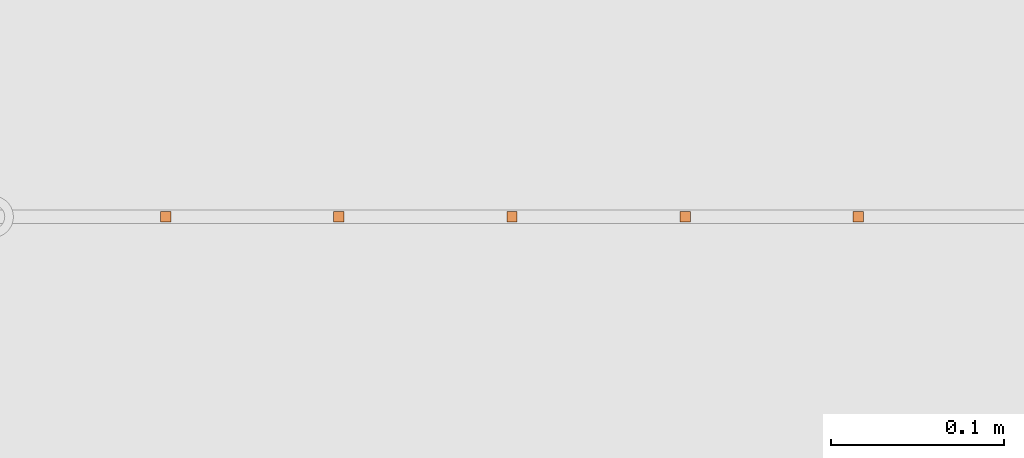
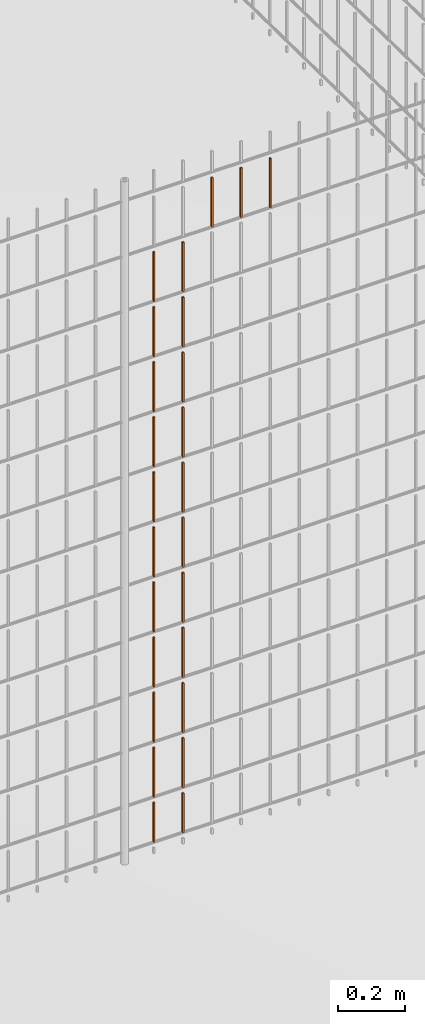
# One storey, part 247 of 1809: 25 proxies, 1 element without a shape of its own.
"""IFC2X3 building model written with IfcOpenShell, lengths in millimetres."""

from ifc_helpers import new_model, entity, si_unit, converted_unit, derived_unit, money_unit, direction, frame, origin_with_axes, place, context, subcontext, project, spatial, faceted_brep, source, transform, mapped, material, type_object, element, aggregate, save


model = new_model("IFC2X3")

# Units and contexts
model_context = context("Model", 3, precision=0.01, world=origin_with_axes(), true_north=direction((0.0, 1.0)))
body_context = subcontext(model_context, "Body", "Model", "MODEL_VIEW")
ifc_project = project(units=[si_unit("LENGTHUNIT", "METRE", prefix="MILLI"), si_unit("AREAUNIT", "SQUARE_METRE"), si_unit("VOLUMEUNIT", "CUBIC_METRE"), converted_unit("PLANEANGLEUNIT", "DEGREE", entity("IfcPlaneAngleMeasure", 0.0174532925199), si_unit("PLANEANGLEUNIT", "RADIAN"), dimensions=[0, 0, 0, 0, 0, 0, 0]), si_unit("SOLIDANGLEUNIT", "STERADIAN"), money_unit("EUR"), converted_unit("TIMEUNIT", "Year", entity("IfcTimeMeasure", 31556926.0), si_unit("TIMEUNIT", "SECOND"), dimensions=[0, 0, 1, 0, 0, 0, 0]), si_unit("MASSUNIT", "GRAM", prefix="KILO"), si_unit("THERMODYNAMICTEMPERATUREUNIT", "DEGREE_CELSIUS"), si_unit("LUMINOUSINTENSITYUNIT", "LUMEN"), si_unit("ENERGYUNIT", "JOULE", prefix="MEGA"), derived_unit("THERMALCONDUCTANCEUNIT", [(si_unit("POWERUNIT", "WATT"), 1), (si_unit("LENGTHUNIT", "METRE"), -1), (si_unit("THERMODYNAMICTEMPERATUREUNIT", "KELVIN"), -1)]), derived_unit("SPECIFICHEATCAPACITYUNIT", [(si_unit("ENERGYUNIT", "JOULE"), 1), (si_unit("MASSUNIT", "GRAM", prefix="KILO"), -1), (si_unit("THERMODYNAMICTEMPERATUREUNIT", "KELVIN"), -1)]), derived_unit("MASSDENSITYUNIT", [(si_unit("MASSUNIT", "GRAM", prefix="KILO"), 1), (si_unit("VOLUMEUNIT", "CUBIC_METRE"), -1)])], contexts=[model_context])

# Site, building, storey
site_placement = place(None, origin_with_axes())
site = spatial("IfcSite", under=ifc_project, at=site_placement, Name="Politse- ja Piirivalveameti ning Päästeameti ühishoone", CompositionType="ELEMENT")
building_placement = place(site_placement, origin_with_axes())
building = spatial("IfcBuilding", under=site, at=building_placement, Name="Politse- ja Piirivalveameti ning Päästeameti ühishoone", CompositionType="ELEMENT")
storey_placement = place(building_placement, origin_with_axes())
storey = spatial("IfcBuildingStorey", under=building, at=storey_placement, Name="Esimene korrus", CompositionType="ELEMENT", Elevation=0.0)

# Proxies
building_element_proxy_type_1 = type_object("IfcBuildingElementProxyType", Name="Railing Type", PredefinedType="NOTDEFINED")
proxy_1_placement = place(storey_placement, frame((-16775.8601056, 25156.7555964, 0.0), z_axis=(0.0, 0.0, 1.0), x_axis=(1.0, 0.0, 0.0)))
proxy_1 = element("IfcBuildingElementProxy", 1, at=proxy_1_placement, inside=storey, type_object=building_element_proxy_type_1, Name="KENNELI PIIRE")
ifc_material = material(Name="Teras - Konstruktsioon")
building_element_proxy_type_2 = type_object("IfcBuildingElementProxyType", Name="IfcBuildingElementProxy", PredefinedType="NOTDEFINED")
shared_shape_1 = source(origin_with_axes(), body_context, "Body", "Brep", [
    faceted_brep([(3.0, 3.0, 0.0), (-3.0, 3.0, 0.0), (-3.0, 3.0, 180.000012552), (3.0, 3.0, 180.000012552), (3.0, -3.0, 0.0), (-3.0, -3.0, 0.0), (-3.0, -3.0, 180.000012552), (3.0, -3.0, 180.000012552)], [[[0, 1, 2, 3]], [[0, 4, 5, 1]], [[1, 5, 6, 2]], [[3, 2, 6, 7]], [[4, 0, 3, 7]], [[5, 4, 7, 6]]]),
])
proxy_2_placement = place(proxy_1_placement, frame((-2282.26655065, -16068.8402798, 403.999987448), z_axis=(0.0, 0.0, 1.0), x_axis=(1.0, 0.0, 0.0)))
proxy_2 = element("IfcBuildingElementProxy", 2, at=proxy_2_placement, type_object=building_element_proxy_type_2, material=ifc_material, Name="BALUSTER - 001", context=body_context, shape_type="MappedRepresentation", body=[
    mapped(shared_shape_1, transform((0.0, 0.0, 0.0), x_axis=(0.0, -1.0, 0.0), y_axis=(1.0, 0.0, 0.0), z_axis=(0.0, 0.0, 1.0))),
])
proxy_3_placement = place(proxy_1_placement, frame((-2182.26655065, -16068.8402798, 403.999987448), z_axis=(0.0, 0.0, 1.0), x_axis=(1.0, 0.0, 0.0)))
proxy_3 = element("IfcBuildingElementProxy", 3, at=proxy_3_placement, type_object=building_element_proxy_type_2, material=ifc_material, Name="BALUSTER - 001", context=body_context, shape_type="MappedRepresentation", body=[
    mapped(shared_shape_1, transform((0.0, 0.0, 0.0), x_axis=(0.0, -1.0, 0.0), y_axis=(1.0, 0.0, 0.0), z_axis=(0.0, 0.0, 1.0))),
])
proxy_4_placement = place(proxy_1_placement, frame((-2282.26655065, -16068.8402798, 803.999987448), z_axis=(0.0, 0.0, 1.0), x_axis=(1.0, 0.0, 0.0)))
proxy_4 = element("IfcBuildingElementProxy", 4, at=proxy_4_placement, type_object=building_element_proxy_type_2, material=ifc_material, Name="BALUSTER - 001", context=body_context, shape_type="MappedRepresentation", body=[
    mapped(shared_shape_1, transform((0.0, 0.0, 0.0), x_axis=(0.0, -1.0, 0.0), y_axis=(1.0, 0.0, 0.0), z_axis=(0.0, 0.0, 1.0))),
])
proxy_5_placement = place(proxy_1_placement, frame((-2182.26655065, -16068.8402798, 803.999987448), z_axis=(0.0, 0.0, 1.0), x_axis=(1.0, 0.0, 0.0)))
proxy_5 = element("IfcBuildingElementProxy", 5, at=proxy_5_placement, type_object=building_element_proxy_type_2, material=ifc_material, Name="BALUSTER - 001", context=body_context, shape_type="MappedRepresentation", body=[
    mapped(shared_shape_1, transform((0.0, 0.0, 0.0), x_axis=(0.0, -1.0, 0.0), y_axis=(1.0, 0.0, 0.0), z_axis=(0.0, 0.0, 1.0))),
])
proxy_6_placement = place(proxy_1_placement, frame((-2282.26655065, -16068.8402798, 1003.99998745), z_axis=(0.0, 0.0, 1.0), x_axis=(1.0, 0.0, 0.0)))
proxy_6 = element("IfcBuildingElementProxy", 6, at=proxy_6_placement, type_object=building_element_proxy_type_2, material=ifc_material, Name="BALUSTER - 001", context=body_context, shape_type="MappedRepresentation", body=[
    mapped(shared_shape_1, transform((0.0, 0.0, 0.0), x_axis=(0.0, -1.0, 0.0), y_axis=(1.0, 0.0, 0.0), z_axis=(0.0, 0.0, 1.0))),
])
proxy_7_placement = place(proxy_1_placement, frame((-2182.26655065, -16068.8402798, 1003.99998745), z_axis=(0.0, 0.0, 1.0), x_axis=(1.0, 0.0, 0.0)))
proxy_7 = element("IfcBuildingElementProxy", 7, at=proxy_7_placement, type_object=building_element_proxy_type_2, material=ifc_material, Name="BALUSTER - 001", context=body_context, shape_type="MappedRepresentation", body=[
    mapped(shared_shape_1, transform((0.0, 0.0, 0.0), x_axis=(0.0, -1.0, 0.0), y_axis=(1.0, 0.0, 0.0), z_axis=(0.0, 0.0, 1.0))),
])
shared_shape_2 = source(origin_with_axes(), body_context, "Body", "Brep", [
    faceted_brep([(3.0, 3.0, 0.0), (-3.0, 3.0, 0.0), (-3.0, 3.0, 144.000012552), (3.0, 3.0, 144.000012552), (3.0, -3.0, 0.0), (-3.0, -3.0, 0.0), (-3.0, -3.0, 144.000012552), (3.0, -3.0, 144.000012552)], [[[0, 1, 2, 3]], [[0, 4, 5, 1]], [[1, 5, 6, 2]], [[3, 2, 6, 7]], [[4, 0, 3, 7]], [[5, 4, 7, 6]]]),
])
proxy_8_placement = place(proxy_1_placement, frame((-2282.26655065, -16068.8402798, 39.9999874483), z_axis=(0.0, 0.0, 1.0), x_axis=(1.0, 0.0, 0.0)))
proxy_8 = element("IfcBuildingElementProxy", 8, at=proxy_8_placement, type_object=building_element_proxy_type_2, material=ifc_material, Name="BALUSTER - 001", context=body_context, shape_type="MappedRepresentation", body=[
    mapped(shared_shape_2, transform((0.0, 0.0, 0.0), x_axis=(0.0, -1.0, 0.0), y_axis=(1.0, 0.0, 0.0), z_axis=(0.0, 0.0, 1.0))),
])
proxy_9_placement = place(proxy_1_placement, frame((-2182.26655065, -16068.8402798, 39.9999874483), z_axis=(0.0, 0.0, 1.0), x_axis=(1.0, 0.0, 0.0)))
proxy_9 = element("IfcBuildingElementProxy", 9, at=proxy_9_placement, type_object=building_element_proxy_type_2, material=ifc_material, Name="BALUSTER - 001", context=body_context, shape_type="MappedRepresentation", body=[
    mapped(shared_shape_2, transform((0.0, 0.0, 0.0), x_axis=(0.0, -1.0, 0.0), y_axis=(1.0, 0.0, 0.0), z_axis=(0.0, 0.0, 1.0))),
])
shared_shape_3 = source(origin_with_axes(), body_context, "Body", "Brep", [
    faceted_brep([(3.0, 3.0, 0.0), (-3.0, 3.0, 0.0), (-3.0, 3.0, 180.000012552), (3.0, 3.0, 180.000012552), (3.0, -3.0, 0.0), (-3.0, -3.0, 0.0), (-3.0, -3.0, 180.000012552), (3.0, -3.0, 180.000012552)], [[[0, 1, 2, 3]], [[0, 4, 5, 1]], [[1, 5, 6, 2]], [[3, 2, 6, 7]], [[4, 0, 3, 7]], [[5, 4, 7, 6]]]),
])
proxy_10_placement = place(proxy_1_placement, frame((-2282.26655065, -16068.8402798, 1403.99998745), z_axis=(0.0, 0.0, 1.0), x_axis=(1.0, 0.0, 0.0)))
proxy_10 = element("IfcBuildingElementProxy", 10, at=proxy_10_placement, type_object=building_element_proxy_type_2, material=ifc_material, Name="BALUSTER - 001", context=body_context, shape_type="MappedRepresentation", body=[
    mapped(shared_shape_3, transform((0.0, 0.0, 0.0), x_axis=(0.0, -1.0, 0.0), y_axis=(1.0, 0.0, 0.0), z_axis=(0.0, 0.0, 1.0))),
])
proxy_11_placement = place(proxy_1_placement, frame((-2182.26655065, -16068.8402798, 1403.99998745), z_axis=(0.0, 0.0, 1.0), x_axis=(1.0, 0.0, 0.0)))
proxy_11 = element("IfcBuildingElementProxy", 11, at=proxy_11_placement, type_object=building_element_proxy_type_2, material=ifc_material, Name="BALUSTER - 001", context=body_context, shape_type="MappedRepresentation", body=[
    mapped(shared_shape_3, transform((0.0, 0.0, 0.0), x_axis=(0.0, -1.0, 0.0), y_axis=(1.0, 0.0, 0.0), z_axis=(0.0, 0.0, 1.0))),
])
shared_shape_4 = source(origin_with_axes(), body_context, "Body", "Brep", [
    faceted_brep([(3.0, 3.0, 0.0), (-3.0, 3.0, 0.0), (-3.0, 3.0, 180.000012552), (3.0, 3.0, 180.000012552), (3.0, -3.0, 0.0), (-3.0, -3.0, 0.0), (-3.0, -3.0, 180.000012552), (3.0, -3.0, 180.000012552)], [[[0, 1, 2, 3]], [[0, 4, 5, 1]], [[1, 5, 6, 2]], [[3, 2, 6, 7]], [[4, 0, 3, 7]], [[5, 4, 7, 6]]]),
])
proxy_12_placement = place(proxy_1_placement, frame((-2282.26655065, -16068.8402798, 1803.99998745), z_axis=(0.0, 0.0, 1.0), x_axis=(1.0, 0.0, 0.0)))
proxy_12 = element("IfcBuildingElementProxy", 12, at=proxy_12_placement, type_object=building_element_proxy_type_2, material=ifc_material, Name="BALUSTER - 001", context=body_context, shape_type="MappedRepresentation", body=[
    mapped(shared_shape_4, transform((0.0, 0.0, 0.0), x_axis=(0.0, -1.0, 0.0), y_axis=(1.0, 0.0, 0.0), z_axis=(0.0, 0.0, 1.0))),
])
proxy_13_placement = place(proxy_1_placement, frame((-2182.26655065, -16068.8402798, 1803.99998745), z_axis=(0.0, 0.0, 1.0), x_axis=(1.0, 0.0, 0.0)))
proxy_13 = element("IfcBuildingElementProxy", 13, at=proxy_13_placement, type_object=building_element_proxy_type_2, material=ifc_material, Name="BALUSTER - 001", context=body_context, shape_type="MappedRepresentation", body=[
    mapped(shared_shape_4, transform((0.0, 0.0, 0.0), x_axis=(0.0, -1.0, 0.0), y_axis=(1.0, 0.0, 0.0), z_axis=(0.0, 0.0, 1.0))),
])
shared_shape_5 = source(origin_with_axes(), body_context, "Body", "Brep", [
    faceted_brep([(3.0, 3.0, 0.0), (-3.0, 3.0, 0.0), (-3.0, 3.0, 180.000012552), (3.0, 3.0, 180.000012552), (3.0, -3.0, 0.0), (-3.0, -3.0, 0.0), (-3.0, -3.0, 180.000012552), (3.0, -3.0, 180.000012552)], [[[0, 1, 2, 3]], [[0, 4, 5, 1]], [[1, 5, 6, 2]], [[3, 2, 6, 7]], [[4, 0, 3, 7]], [[5, 4, 7, 6]]]),
])
proxy_14_placement = place(proxy_1_placement, frame((-2282.26655065, -16068.8402798, 2003.99998745), z_axis=(0.0, 0.0, 1.0), x_axis=(1.0, 0.0, 0.0)))
proxy_14 = element("IfcBuildingElementProxy", 14, at=proxy_14_placement, type_object=building_element_proxy_type_2, material=ifc_material, Name="BALUSTER - 001", context=body_context, shape_type="MappedRepresentation", body=[
    mapped(shared_shape_5, transform((0.0, 0.0, 0.0), x_axis=(0.0, -1.0, 0.0), y_axis=(1.0, 0.0, 0.0), z_axis=(0.0, 0.0, 1.0))),
])
proxy_15_placement = place(proxy_1_placement, frame((-2182.26655065, -16068.8402798, 2003.99998745), z_axis=(0.0, 0.0, 1.0), x_axis=(1.0, 0.0, 0.0)))
proxy_15 = element("IfcBuildingElementProxy", 15, at=proxy_15_placement, type_object=building_element_proxy_type_2, material=ifc_material, Name="BALUSTER - 001", context=body_context, shape_type="MappedRepresentation", body=[
    mapped(shared_shape_5, transform((0.0, 0.0, 0.0), x_axis=(0.0, -1.0, 0.0), y_axis=(1.0, 0.0, 0.0), z_axis=(0.0, 0.0, 1.0))),
])
shared_shape_6 = source(origin_with_axes(), body_context, "Body", "Brep", [
    faceted_brep([(3.0, 3.0, 0.0), (-3.0, 3.0, 0.0), (-3.0, 3.0, 180.000012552), (3.0, 3.0, 180.000012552), (3.0, -3.0, 0.0), (-3.0, -3.0, 0.0), (-3.0, -3.0, 180.000012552), (3.0, -3.0, 180.000012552)], [[[0, 1, 2, 3]], [[0, 4, 5, 1]], [[1, 5, 6, 2]], [[3, 2, 6, 7]], [[4, 0, 3, 7]], [[5, 4, 7, 6]]]),
])
proxy_16_placement = place(proxy_1_placement, frame((-2082.26655065, -16068.8402798, 2203.99998745), z_axis=(0.0, 0.0, 1.0), x_axis=(1.0, 0.0, 0.0)))
proxy_16 = element("IfcBuildingElementProxy", 16, at=proxy_16_placement, type_object=building_element_proxy_type_2, material=ifc_material, Name="BALUSTER - 001", context=body_context, shape_type="MappedRepresentation", body=[
    mapped(shared_shape_6, transform((0.0, 0.0, 0.0), x_axis=(0.0, -1.0, 0.0), y_axis=(1.0, 0.0, 0.0), z_axis=(0.0, 0.0, 1.0))),
])
proxy_17_placement = place(proxy_1_placement, frame((-1982.26655065, -16068.8402798, 2203.99998745), z_axis=(0.0, 0.0, 1.0), x_axis=(1.0, 0.0, 0.0)))
proxy_17 = element("IfcBuildingElementProxy", 17, at=proxy_17_placement, type_object=building_element_proxy_type_2, material=ifc_material, Name="BALUSTER - 001", context=body_context, shape_type="MappedRepresentation", body=[
    mapped(shared_shape_6, transform((0.0, 0.0, 0.0), x_axis=(0.0, -1.0, 0.0), y_axis=(1.0, 0.0, 0.0), z_axis=(0.0, 0.0, 1.0))),
])
proxy_18_placement = place(proxy_1_placement, frame((-1882.26655065, -16068.8402798, 2203.99998745), z_axis=(0.0, 0.0, 1.0), x_axis=(1.0, 0.0, 0.0)))
proxy_18 = element("IfcBuildingElementProxy", 18, at=proxy_18_placement, type_object=building_element_proxy_type_2, material=ifc_material, Name="BALUSTER - 001", context=body_context, shape_type="MappedRepresentation", body=[
    mapped(shared_shape_6, transform((0.0, 0.0, 0.0), x_axis=(0.0, -1.0, 0.0), y_axis=(1.0, 0.0, 0.0), z_axis=(0.0, 0.0, 1.0))),
])
proxy_19_placement = place(proxy_1_placement, frame((-2282.26655065, -16068.8402798, 1203.99998745), z_axis=(0.0, 0.0, 1.0), x_axis=(1.0, 0.0, 0.0)))
proxy_19 = element("IfcBuildingElementProxy", 19, at=proxy_19_placement, type_object=building_element_proxy_type_2, material=ifc_material, Name="BALUSTER - 001", context=body_context, shape_type="MappedRepresentation", body=[
    mapped(shared_shape_6, transform((0.0, 0.0, 0.0), x_axis=(0.0, -1.0, 0.0), y_axis=(1.0, 0.0, 0.0), z_axis=(0.0, 0.0, 1.0))),
])
proxy_20_placement = place(proxy_1_placement, frame((-2182.26655065, -16068.8402798, 1203.99998745), z_axis=(0.0, 0.0, 1.0), x_axis=(1.0, 0.0, 0.0)))
proxy_20 = element("IfcBuildingElementProxy", 20, at=proxy_20_placement, type_object=building_element_proxy_type_2, material=ifc_material, Name="BALUSTER - 001", context=body_context, shape_type="MappedRepresentation", body=[
    mapped(shared_shape_6, transform((0.0, 0.0, 0.0), x_axis=(0.0, -1.0, 0.0), y_axis=(1.0, 0.0, 0.0), z_axis=(0.0, 0.0, 1.0))),
])
shared_shape_7 = source(origin_with_axes(), body_context, "Body", "Brep", [
    faceted_brep([(3.0, 3.0, 0.0), (-3.0, 3.0, 0.0), (-3.0, 3.0, 180.000012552), (3.0, 3.0, 180.000012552), (3.0, -3.0, 0.0), (-3.0, -3.0, 0.0), (-3.0, -3.0, 180.000012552), (3.0, -3.0, 180.000012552)], [[[0, 1, 2, 3]], [[0, 4, 5, 1]], [[1, 5, 6, 2]], [[3, 2, 6, 7]], [[4, 0, 3, 7]], [[5, 4, 7, 6]]]),
])
proxy_21_placement = place(proxy_1_placement, frame((-2282.26655065, -16068.8402798, 203.999987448), z_axis=(0.0, 0.0, 1.0), x_axis=(1.0, 0.0, 0.0)))
proxy_21 = element("IfcBuildingElementProxy", 21, at=proxy_21_placement, type_object=building_element_proxy_type_2, material=ifc_material, Name="BALUSTER - 001", context=body_context, shape_type="MappedRepresentation", body=[
    mapped(shared_shape_7, transform((0.0, 0.0, 0.0), x_axis=(0.0, -1.0, 0.0), y_axis=(1.0, 0.0, 0.0), z_axis=(0.0, 0.0, 1.0))),
])
proxy_22_placement = place(proxy_1_placement, frame((-2182.26655065, -16068.8402798, 203.999987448), z_axis=(0.0, 0.0, 1.0), x_axis=(1.0, 0.0, 0.0)))
proxy_22 = element("IfcBuildingElementProxy", 22, at=proxy_22_placement, type_object=building_element_proxy_type_2, material=ifc_material, Name="BALUSTER - 001", context=body_context, shape_type="MappedRepresentation", body=[
    mapped(shared_shape_7, transform((0.0, 0.0, 0.0), x_axis=(0.0, -1.0, 0.0), y_axis=(1.0, 0.0, 0.0), z_axis=(0.0, 0.0, 1.0))),
])
shared_shape_8 = source(origin_with_axes(), body_context, "Body", "Brep", [
    faceted_brep([(3.0, 3.0, 0.0), (-3.0, 3.0, 0.0), (-3.0, 3.0, 180.000012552), (3.0, 3.0, 180.000012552), (3.0, -3.0, 0.0), (-3.0, -3.0, 0.0), (-3.0, -3.0, 180.000012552), (3.0, -3.0, 180.000012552)], [[[0, 1, 2, 3]], [[0, 4, 5, 1]], [[1, 5, 6, 2]], [[3, 2, 6, 7]], [[4, 0, 3, 7]], [[5, 4, 7, 6]]]),
])
proxy_23_placement = place(proxy_1_placement, frame((-2282.26655065, -16068.8402798, 603.999987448), z_axis=(0.0, 0.0, 1.0), x_axis=(1.0, 0.0, 0.0)))
proxy_23 = element("IfcBuildingElementProxy", 23, at=proxy_23_placement, type_object=building_element_proxy_type_2, material=ifc_material, Name="BALUSTER - 001", context=body_context, shape_type="MappedRepresentation", body=[
    mapped(shared_shape_8, transform((0.0, 0.0, 0.0), x_axis=(0.0, -1.0, 0.0), y_axis=(1.0, 0.0, 0.0), z_axis=(0.0, 0.0, 1.0))),
])
proxy_24_placement = place(proxy_1_placement, frame((-2182.26655065, -16068.8402798, 603.999987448), z_axis=(0.0, 0.0, 1.0), x_axis=(1.0, 0.0, 0.0)))
proxy_24 = element("IfcBuildingElementProxy", 24, at=proxy_24_placement, type_object=building_element_proxy_type_2, material=ifc_material, Name="BALUSTER - 001", context=body_context, shape_type="MappedRepresentation", body=[
    mapped(shared_shape_8, transform((0.0, 0.0, 0.0), x_axis=(0.0, -1.0, 0.0), y_axis=(1.0, 0.0, 0.0), z_axis=(0.0, 0.0, 1.0))),
])
shared_shape_9 = source(origin_with_axes(), body_context, "Body", "Brep", [
    faceted_brep([(3.0, 3.0, 0.0), (-3.0, 3.0, 0.0), (-3.0, 3.0, 180.000012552), (3.0, 3.0, 180.000012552), (3.0, -3.0, 0.0), (-3.0, -3.0, 0.0), (-3.0, -3.0, 180.000012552), (3.0, -3.0, 180.000012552)], [[[0, 1, 2, 3]], [[0, 4, 5, 1]], [[1, 5, 6, 2]], [[3, 2, 6, 7]], [[4, 0, 3, 7]], [[5, 4, 7, 6]]]),
])
proxy_25_placement = place(proxy_1_placement, frame((-2282.26655065, -16068.8402798, 1603.99998745), z_axis=(0.0, 0.0, 1.0), x_axis=(1.0, 0.0, 0.0)))
proxy_25 = element("IfcBuildingElementProxy", 25, at=proxy_25_placement, type_object=building_element_proxy_type_2, material=ifc_material, Name="BALUSTER - 001", context=body_context, shape_type="MappedRepresentation", body=[
    mapped(shared_shape_9, transform((0.0, 0.0, 0.0), x_axis=(0.0, -1.0, 0.0), y_axis=(1.0, 0.0, 0.0), z_axis=(0.0, 0.0, 1.0))),
])
proxy_26_placement = place(proxy_1_placement, frame((-2182.26655065, -16068.8402798, 1603.99998745), z_axis=(0.0, 0.0, 1.0), x_axis=(1.0, 0.0, 0.0)))
proxy_26 = element("IfcBuildingElementProxy", 26, at=proxy_26_placement, type_object=building_element_proxy_type_2, material=ifc_material, Name="BALUSTER - 001", context=body_context, shape_type="MappedRepresentation", body=[
    mapped(shared_shape_9, transform((0.0, 0.0, 0.0), x_axis=(0.0, -1.0, 0.0), y_axis=(1.0, 0.0, 0.0), z_axis=(0.0, 0.0, 1.0))),
])
aggregate(proxy_1, [proxy_16, proxy_17, proxy_18, proxy_8, proxy_9, proxy_21, proxy_22, proxy_2, proxy_3, proxy_23, proxy_24, proxy_4, proxy_5, proxy_6, proxy_7, proxy_19, proxy_20, proxy_10, proxy_11, proxy_25, proxy_26, proxy_12, proxy_13, proxy_14, proxy_15])

save(model, "model.ifc")
